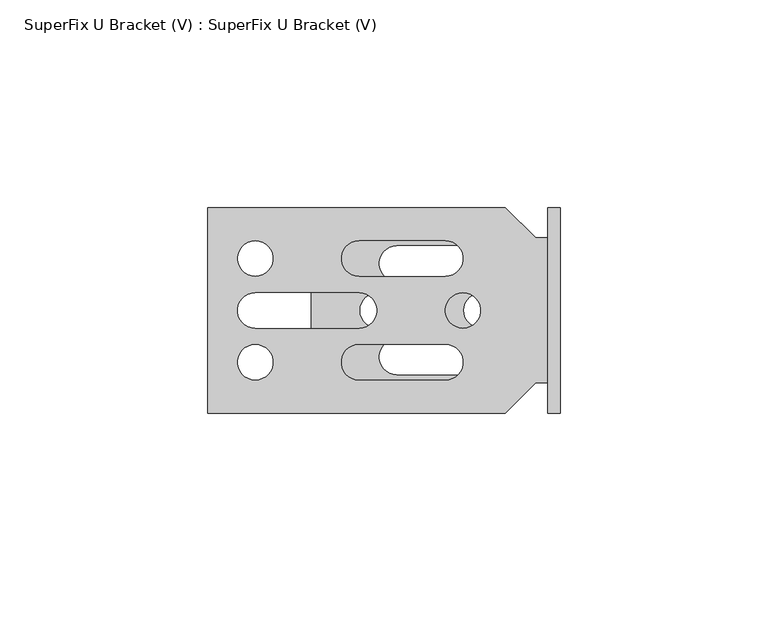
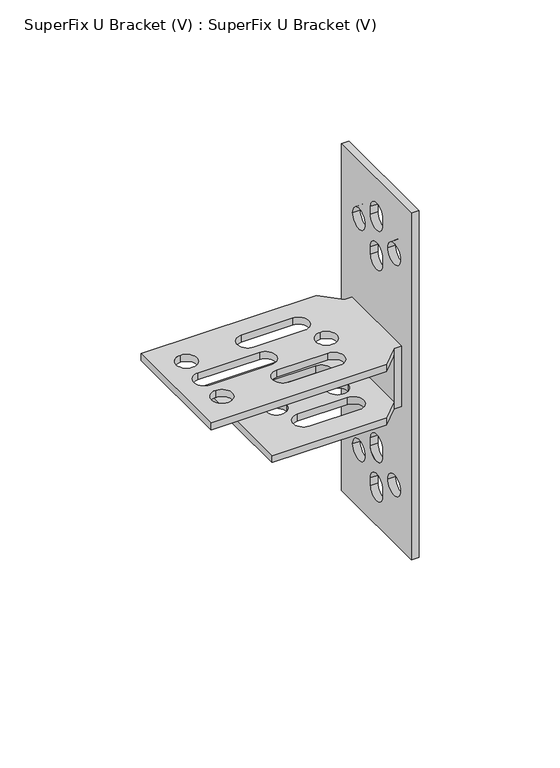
"""IFC4 building model written with IfcOpenShell, lengths in millimetres: valve geometry, SuperFix U Bracket (V) : SuperFix U Bracket (V)."""

from ifc_helpers import new_model, si_unit, point, frame, frame_2d, origin, place, context, project, spatial, polyline, circle_curve, trimmed, segment, composite_curve, outline, extrude, source, transform, mapped, element, save
from ifc_brep_helpers import plane_surface, revolved_surface, advanced_brep


def superfix_u_bracket_v_superfix_u_bracket_v_062b6a46(model_context):
    return source(origin(), model_context, "Body", "SolidModel", [
        advanced_brep(
        [(-60.0, -24.75, 3.0), (-60.0, -24.75, 0.0), (-13.2769513, -24.75, 0.0), (-13.2769513, -24.75, 3.0), (-85.0, -24.75, 26.0), (-85.0, -24.75, 23.0), (-13.2769513, -24.75, 23.0), (-13.2769513, -24.75, 26.0), (-85.0, 24.75, 23.0), (-85.0, 24.75, 26.0), (-13.2769513, 24.75, 26.0), (-13.2769513, 24.75, 23.0), (-60.0, 24.75, 0.0), (-60.0, 24.75, 3.0), (-13.2769513, 24.75, 3.0), (-13.2769513, 24.75, 0.0), (-5.9935468, 17.4665954, 23.0), (-6.0, -17.4730487, 23.0), (-23.5, -4.25, 23.0), (-23.5, 4.25, 23.0), (-73.5, 8.25, 23.0), (-73.5, 16.75, 23.0), (-73.5, -16.75, 23.0), (-73.5, -8.25, 23.0), (-27.7293627, 16.7623453, 23.0), (-48.5, 16.7623453, 23.0), (-48.5, 8.2417698, 23.0), (-27.7293627, 8.2417698, 23.0), (-27.7293627, -8.2376547, 23.0), (-48.5, -8.2376547, 23.0), (-48.5, -16.7582302, 23.0), (-27.7293627, -16.7582302, 23.0), (-48.5, 4.2602877, 23.0), (-73.5, 4.2602877, 23.0), (-73.5, -4.2602877, 23.0), (-48.5, -4.2602877, 23.0), (-5.9870936, -17.4601422, 26.0), (-3.0, -17.4601422, 26.0), (-3.0, 17.4601422, 26.0), (-5.9870936, 17.4601422, 26.0), (-23.5, 4.25, 26.0), (-23.5, -4.25, 26.0), (-73.5, 16.75, 26.0), (-73.5, 8.25, 26.0), (-73.5, -8.25, 26.0), (-73.5, -16.75, 26.0), (-48.5, 16.7623453, 26.0), (-27.7293627, 16.7623453, 26.0), (-27.7293627, 8.2417698, 26.0), (-48.5, 8.2417698, 26.0), (-48.5, -8.2376547, 26.0), (-27.7293627, -8.2376547, 26.0), (-27.7293627, -16.7582302, 26.0), (-48.5, -16.7582302, 26.0), (-73.5, 4.2602877, 26.0), (-48.5, 4.2602877, 26.0), (-48.5, -4.2602877, 26.0), (-73.5, -4.2602877, 26.0), (-3.0, -17.4601422, 0.0), (-3.0, 17.4601422, 0.0), (-5.9870936, 17.4601422, 0.0), (-5.9870936, -17.4601422, 0.0), (-39.7659437, 0.0, 0.0), (-48.2659437, 0.0, 0.0), (-14.7659437, 0.0, 0.0), (-23.2659437, 0.0, 0.0), (-19.0159437, -15.5178015, 0.0), (-19.0159437, -7.0178015, 0.0), (-39.373508, -7.0178015, 0.0), (-39.373508, -15.5178015, 0.0), (-19.0159437, 15.5178015, 0.0), (-39.373508, 15.5178015, 0.0), (-39.373508, 7.0178015, 0.0), (-19.0159437, 7.0178015, 0.0), (-6.0, -17.4730487, 3.0), (-6.0, 17.4601422, 3.0), (-48.2659437, 0.0, 3.0), (-39.7659437, 0.0, 3.0), (-23.2659437, 0.0, 3.0), (-14.7659437, 0.0, 3.0), (-19.0159437, -7.0178015, 3.0), (-19.0159437, -15.5178015, 3.0), (-39.373508, -15.5178015, 3.0), (-39.373508, -7.0178015, 3.0), (-39.373508, 15.5178015, 3.0), (-19.0159437, 15.5178015, 3.0), (-19.0159437, 7.0178015, 3.0), (-39.373508, 7.0178015, 3.0)],
        [
            (0, 1),
            (1, 2),
            (2, 3),
            (3, 0),
            (4, 5),
            (5, 6),
            (6, 7),
            (7, 4),
            (8, 9),
            (9, 10),
            (10, 11),
            (11, 8),
            (12, 13),
            (13, 14),
            (14, 15),
            (15, 12),
            (5, 8),
            (11, 16),
            (16, 17),
            (17, 6),
            (18, 19, circle_curve(frame((-23.5, 0.0, 23.0), z_axis=(0.0, 0.0, 1.0), x_axis=(0.0, -1.0, 0.0)), 4.25)),
            (19, 18, circle_curve(frame((-23.5, 0.0, 23.0), z_axis=(0.0, 0.0, 1.0), x_axis=(0.0, -1.0, 0.0)), 4.25)),
            (20, 21, circle_curve(frame((-73.5, 12.5, 23.0), z_axis=(0.0, 0.0, 1.0), x_axis=(0.0, -1.0, 0.0)), 4.25)),
            (21, 20, circle_curve(frame((-73.5, 12.5, 23.0), z_axis=(0.0, 0.0, 1.0), x_axis=(0.0, -1.0, 0.0)), 4.25)),
            (22, 23, circle_curve(frame((-73.5, -12.5, 23.0), z_axis=(0.0, 0.0, 1.0), x_axis=(0.0, -1.0, 0.0)), 4.25)),
            (23, 22, circle_curve(frame((-73.5, -12.5, 23.0), z_axis=(0.0, 0.0, 1.0), x_axis=(0.0, -1.0, 0.0)), 4.25)),
            (24, 25),
            (25, 26, circle_curve(frame((-48.5, 12.5020575, 23.0), z_axis=(0.0, 0.0, 1.0), x_axis=(0.0, -1.0, 0.0)), 4.2602877)),
            (26, 27),
            (27, 24, circle_curve(frame((-27.7293627, 12.5020575, 23.0), z_axis=(0.0, 0.0, 1.0), x_axis=(0.0, -1.0, 0.0)), 4.2602877)),
            (28, 29),
            (29, 30, circle_curve(frame((-48.5, -12.4979425, 23.0), z_axis=(0.0, 0.0, 1.0), x_axis=(0.0, -1.0, 0.0)), 4.2602877)),
            (30, 31),
            (31, 28, circle_curve(frame((-27.7293627, -12.4979425, 23.0), z_axis=(0.0, 0.0, 1.0), x_axis=(0.0, -1.0, 0.0)), 4.2602877)),
            (32, 33),
            (33, 34, circle_curve(frame((-73.5, 0.0, 23.0), z_axis=(0.0, 0.0, 1.0), x_axis=(0.0, -1.0, 0.0)), 4.2602877)),
            (34, 35),
            (35, 32, circle_curve(frame((-48.5, 0.0, 23.0), z_axis=(0.0, 0.0, 1.0), x_axis=(0.0, -1.0, 0.0)), 4.2602877)),
            (4, 9),
            (7, 36),
            (36, 37),
            (37, 38),
            (38, 39),
            (39, 10),
            (40, 41, circle_curve(frame((-23.5, 0.0, 26.0), z_axis=(0.0, 0.0, -1.0), x_axis=(0.0, -1.0, 0.0)), 4.25)),
            (41, 40, circle_curve(frame((-23.5, 0.0, 26.0), z_axis=(0.0, 0.0, -1.0), x_axis=(0.0, -1.0, 0.0)), 4.25)),
            (42, 43, circle_curve(frame((-73.5, 12.5, 26.0), z_axis=(0.0, 0.0, -1.0), x_axis=(0.0, -1.0, 0.0)), 4.25)),
            (43, 42, circle_curve(frame((-73.5, 12.5, 26.0), z_axis=(0.0, 0.0, -1.0), x_axis=(0.0, -1.0, 0.0)), 4.25)),
            (44, 45, circle_curve(frame((-73.5, -12.5, 26.0), z_axis=(0.0, 0.0, -1.0), x_axis=(0.0, -1.0, 0.0)), 4.25)),
            (45, 44, circle_curve(frame((-73.5, -12.5, 26.0), z_axis=(0.0, 0.0, -1.0), x_axis=(0.0, -1.0, 0.0)), 4.25)),
            (46, 47),
            (47, 48, circle_curve(frame((-27.7293627, 12.5020575, 26.0), z_axis=(0.0, 0.0, -1.0), x_axis=(0.0, -1.0, 0.0)), 4.2602877)),
            (48, 49),
            (49, 46, circle_curve(frame((-48.5, 12.5020575, 26.0), z_axis=(0.0, 0.0, -1.0), x_axis=(0.0, -1.0, 0.0)), 4.2602877)),
            (50, 51),
            (51, 52, circle_curve(frame((-27.7293627, -12.4979425, 26.0), z_axis=(0.0, 0.0, -1.0), x_axis=(0.0, -1.0, 0.0)), 4.2602877)),
            (52, 53),
            (53, 50, circle_curve(frame((-48.5, -12.4979425, 26.0), z_axis=(0.0, 0.0, -1.0), x_axis=(0.0, -1.0, 0.0)), 4.2602877)),
            (54, 55),
            (55, 56, circle_curve(frame((-48.5, 0.0, 26.0), z_axis=(0.0, 0.0, -1.0), x_axis=(0.0, -1.0, 0.0)), 4.2602877)),
            (56, 57),
            (57, 54, circle_curve(frame((-73.5, 0.0, 26.0), z_axis=(0.0, 0.0, -1.0), x_axis=(0.0, -1.0, 0.0)), 4.2602877)),
            (37, 58),
            (58, 59),
            (59, 38),
            (1, 12),
            (15, 60),
            (60, 59),
            (58, 61),
            (61, 2),
            (62, 63, circle_curve(frame((-44.0159437, 0.0, 0.0), z_axis=(0.0, 0.0, 1.0), x_axis=(-1.0, 0.0, 0.0)), 4.25)),
            (63, 62, circle_curve(frame((-44.0159437, 0.0, 0.0), z_axis=(0.0, 0.0, 1.0), x_axis=(-1.0, 0.0, 0.0)), 4.25)),
            (64, 65, circle_curve(frame((-19.0159437, 0.0, 0.0), z_axis=(0.0, 0.0, 1.0), x_axis=(-1.0, 0.0, 0.0)), 4.25)),
            (65, 64, circle_curve(frame((-19.0159437, 0.0, 0.0), z_axis=(0.0, 0.0, 1.0), x_axis=(-1.0, 0.0, 0.0)), 4.25)),
            (66, 67, circle_curve(frame((-19.0159437, -11.2678015, 0.0), z_axis=(0.0, 0.0, 1.0), x_axis=(-1.0, 0.0, 0.0)), 4.25)),
            (67, 68),
            (68, 69, circle_curve(frame((-39.373508, -11.2678015, 0.0), z_axis=(0.0, 0.0, 1.0), x_axis=(-1.0, 0.0, 0.0)), 4.25)),
            (69, 66),
            (70, 71),
            (71, 72, circle_curve(frame((-39.373508, 11.2678015, 0.0), z_axis=(0.0, 0.0, 1.0), x_axis=(-1.0, 0.0, 0.0)), 4.25)),
            (72, 73),
            (73, 70, circle_curve(frame((-19.0159437, 11.2678015, 0.0), z_axis=(0.0, 0.0, 1.0), x_axis=(-1.0, 0.0, 0.0)), 4.25)),
            (0, 13),
            (3, 74),
            (74, 75),
            (75, 14),
            (76, 77, circle_curve(frame((-44.0159437, 0.0, 3.0), z_axis=(0.0, 0.0, -1.0), x_axis=(-1.0, 0.0, 0.0)), 4.25)),
            (77, 76, circle_curve(frame((-44.0159437, 0.0, 3.0), z_axis=(0.0, 0.0, -1.0), x_axis=(-1.0, 0.0, 0.0)), 4.25)),
            (78, 79, circle_curve(frame((-19.0159437, 0.0, 3.0), z_axis=(0.0, 0.0, -1.0), x_axis=(-1.0, 0.0, 0.0)), 4.25)),
            (79, 78, circle_curve(frame((-19.0159437, 0.0, 3.0), z_axis=(0.0, 0.0, -1.0), x_axis=(-1.0, 0.0, 0.0)), 4.25)),
            (80, 81, circle_curve(frame((-19.0159437, -11.2678015, 3.0), z_axis=(0.0, 0.0, -1.0), x_axis=(-1.0, 0.0, 0.0)), 4.25)),
            (81, 82),
            (82, 83, circle_curve(frame((-39.373508, -11.2678015, 3.0), z_axis=(0.0, 0.0, -1.0), x_axis=(-1.0, 0.0, 0.0)), 4.25)),
            (83, 80),
            (84, 85),
            (85, 86, circle_curve(frame((-19.0159437, 11.2678015, 3.0), z_axis=(0.0, 0.0, -1.0), x_axis=(-1.0, 0.0, 0.0)), 4.25)),
            (86, 87),
            (87, 84, circle_curve(frame((-39.373508, 11.2678015, 3.0), z_axis=(0.0, 0.0, -1.0), x_axis=(-1.0, 0.0, 0.0)), 4.25)),
            (16, 75),
            (74, 17),
            (40, 19),
            (18, 41),
            (42, 21),
            (20, 43),
            (44, 23),
            (22, 45),
            (46, 25),
            (24, 47),
            (27, 48),
            (26, 49),
            (50, 29),
            (28, 51),
            (31, 52),
            (30, 53),
            (54, 33),
            (32, 55),
            (35, 56),
            (34, 57),
            (16, 39),
            (60, 75),
            (17, 36),
            (61, 74),
            (62, 77),
            (76, 63),
            (64, 79),
            (78, 65),
            (66, 81),
            (80, 67),
            (83, 68),
            (82, 69),
            (70, 85),
            (84, 71),
            (87, 72),
            (86, 73),
        ],
        [
            plane_surface(frame((-85.0, -24.75, 23.0), z_axis=(0.0, -1.0, 0.0), x_axis=(1.0, 0.0, 0.0))),
            plane_surface(frame((-85.0, 24.75, 23.0), z_axis=(0.0, 1.0, 0.0), x_axis=(-1.0, 0.0, 0.0))),
            plane_surface(frame((-6.0, 24.75, 23.0), z_axis=(0.0, 0.0, -1.0), x_axis=(0.0, -1.0, 0.0))),
            plane_surface(frame((-85.0, 24.75, 23.0), z_axis=(-1.0, 0.0, 0.0), x_axis=(0.0, -1.0, 0.0))),
            plane_surface(frame((-85.0, 24.75, 26.0), z_axis=(0.0, 0.0, 1.0), x_axis=(0.0, -1.0, 0.0))),
            plane_surface(frame((-3.0, 24.75, 26.0), z_axis=(1.0, 0.0, 0.0), x_axis=(0.0, -1.0, 0.0))),
            plane_surface(frame((-3.0, 24.75, 0.0), z_axis=(0.0, 0.0, -1.0), x_axis=(0.0, -1.0, 0.0))),
            plane_surface(frame((-60.0, 24.75, 0.0), z_axis=(-1.0, 0.0, 0.0), x_axis=(0.0, -1.0, 0.0))),
            plane_surface(frame((-60.0, 24.75, 3.0), z_axis=(0.0, 0.0, 1.0), x_axis=(0.0, -1.0, 0.0))),
            plane_surface(frame((-6.0, 24.75, 3.0), z_axis=(-1.0, 0.0, 0.0), x_axis=(0.0, -1.0, 0.0))),
            revolved_surface(polyline([(-23.5, -4.25, 23.0), (-23.5, -4.25, 26.0)]), (-23.5, 0.0, 26.0), (0.0, 0.0, -1.0)),
            revolved_surface(polyline([(-73.5, 8.25, 23.0), (-73.5, 8.25, 26.0)]), (-73.5, 12.5, 26.0), (0.0, 0.0, -1.0)),
            revolved_surface(polyline([(-73.5, -16.75, 23.0), (-73.5, -16.75, 26.0)]), (-73.5, -12.5, 26.0), (0.0, 0.0, -1.0)),
            plane_surface(frame((-48.5, 16.7623453, 21.0), z_axis=(0.0, -1.0, 0.0), x_axis=(0.0, 0.0, 1.0))),
            revolved_surface(polyline([(-27.7293627, 8.2417698, 23.0), (-27.7293627, 8.2417698, 26.0)]), (-27.7293627, 12.5020575, 26.0), (0.0, 0.0, -1.0)),
            plane_surface(frame((-27.7293627, 8.2417698, 21.0), z_axis=(0.0, 1.0, 0.0), x_axis=(0.0, 0.0, 1.0))),
            revolved_surface(polyline([(-48.5, 8.2417698, 23.0), (-48.5, 8.2417698, 26.0)]), (-48.5, 12.5020575, 26.0), (0.0, 0.0, -1.0)),
            plane_surface(frame((-48.5, -8.2376547, 21.0), z_axis=(0.0, -1.0, 0.0), x_axis=(0.0, 0.0, 1.0))),
            revolved_surface(polyline([(-27.7293627, -16.7582302, 23.0), (-27.7293627, -16.7582302, 26.0)]), (-27.7293627, -12.4979425, 26.0), (0.0, 0.0, -1.0)),
            plane_surface(frame((-27.7293627, -16.7582302, 21.0), z_axis=(0.0, 1.0, 0.0), x_axis=(0.0, 0.0, 1.0))),
            revolved_surface(polyline([(-48.5, -16.7582302, 23.0), (-48.5, -16.7582302, 26.0)]), (-48.5, -12.4979425, 26.0), (0.0, 0.0, -1.0)),
            plane_surface(frame((-73.5, 4.2602877, 21.0), z_axis=(0.0, -1.0, 0.0), x_axis=(0.0, 0.0, 1.0))),
            revolved_surface(polyline([(-48.5, -4.2602877, 23.0), (-48.5, -4.2602877, 26.0)]), (-48.5, 0.0, 26.0), (0.0, 0.0, -1.0)),
            plane_surface(frame((-48.5, -4.2602877, 21.0), z_axis=(0.0, 1.0, 0.0), x_axis=(0.0, 0.0, 1.0))),
            revolved_surface(polyline([(-73.5, -4.2602877, 23.0), (-73.5, -4.2602877, 26.0)]), (-73.5, 0.0, 26.0), (0.0, 0.0, -1.0)),
            plane_surface(frame((-5.9870936, 17.4601422, 26.0), z_axis=(0.0, 1.0, 0.0), x_axis=(0.0, 0.0, -1.0))),
            plane_surface(frame((-13.2769513, 24.75, 26.0), z_axis=(0.7071067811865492, 0.7071067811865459, 0.0), x_axis=(0.0, 0.0, -1.0))),
            plane_surface(frame((-5.9870936, -17.4601422, 26.0), z_axis=(0.7071067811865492, -0.7071067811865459, 0.0), x_axis=(0.0, 0.0, -1.0))),
            plane_surface(frame((-2.9870936, -17.4601422, 26.0), z_axis=(0.0, -1.0, 0.0), x_axis=(0.0, 0.0, -1.0))),
            revolved_surface(polyline([(-48.2659437, 0.0, 3.0), (-48.2659437, 0.0, 0.0)]), (-44.0159437, 0.0, 0.0), (0.0, 0.0, 1.0)),
            revolved_surface(polyline([(-23.2659437, 0.0, 3.0), (-23.2659437, 0.0, 0.0)]), (-19.0159437, 0.0, 0.0), (0.0, 0.0, 1.0)),
            revolved_surface(polyline([(-23.2659437, -11.2678015, 3.0), (-23.2659437, -11.2678015, 0.0)]), (-19.0159437, -11.2678015, 0.0), (0.0, 0.0, 1.0)),
            plane_surface(frame((-19.0159437, -7.0178015, 5.0), z_axis=(0.0, -1.0, 0.0), x_axis=(0.0, 0.0, -1.0))),
            revolved_surface(polyline([(-43.623508, -11.2678015, 3.0), (-43.623508, -11.2678015, 0.0)]), (-39.373508, -11.2678015, 0.0), (0.0, 0.0, 1.0)),
            plane_surface(frame((-39.373508, -15.5178015, 5.0), z_axis=(0.0, 1.0, 0.0), x_axis=(0.0, 0.0, -1.0))),
            plane_surface(frame((-19.0159437, 15.5178015, 5.0), z_axis=(0.0, -1.0, 0.0), x_axis=(0.0, 0.0, -1.0))),
            revolved_surface(polyline([(-43.623508, 11.2678015, 3.0), (-43.623508, 11.2678015, 0.0)]), (-39.373508, 11.2678015, 0.0), (0.0, 0.0, 1.0)),
            plane_surface(frame((-39.373508, 7.0178015, 5.0), z_axis=(0.0, 1.0, 0.0), x_axis=(0.0, 0.0, -1.0))),
            revolved_surface(polyline([(-23.2659437, 11.2678015, 3.0), (-23.2659437, 11.2678015, 0.0)]), (-19.0159437, 11.2678015, 0.0), (0.0, 0.0, 1.0)),
        ],
        [
            (0, [[1, 2, 3, 4]]),
            (0, [[5, 6, 7, 8]]),
            (1, [[9, 10, 11, 12]]),
            (1, [[13, 14, 15, 16]]),
            (2, [[17, -12, 18, 19, 20, -6], [21, 22], [23, 24], [25, 26], [27, 28, 29, 30], [31, 32, 33, 34], [35, 36, 37, 38]]),
            (3, [[-5, 39, -9, -17]]),
            (4, [[-39, -8, 40, 41, 42, 43, 44, -10], [45, 46], [47, 48], [49, 50], [51, 52, 53, 54], [55, 56, 57, 58], [59, 60, 61, 62]]),
            (5, [[-42, 63, 64, 65]]),
            (6, [[66, -16, 67, 68, -64, 69, 70, -2], [71, 72], [73, 74], [75, 76, 77, 78], [79, 80, 81, 82]]),
            (7, [[-1, 83, -13, -66]]),
            (8, [[-83, -4, 84, 85, 86, -14], [87, 88], [89, 90], [91, 92, 93, 94], [95, 96, 97, 98]]),
            (9, [[-19, 99, -85, 100]]),
            (10, [[101, -21, 102, -45]]),
            (10, [[-101, -46, -102, -22]]),
            (11, [[103, -23, 104, -47]]),
            (11, [[-103, -48, -104, -24]]),
            (12, [[105, -25, 106, -49]]),
            (12, [[-105, -50, -106, -26]]),
            (13, [[107, -27, 108, -51]]),
            (14, [[-108, -30, 109, -52]]),
            (15, [[-109, -29, 110, -53]]),
            (16, [[-107, -54, -110, -28]]),
            (17, [[111, -31, 112, -55]]),
            (18, [[-112, -34, 113, -56]]),
            (19, [[-113, -33, 114, -57]]),
            (20, [[-111, -58, -114, -32]]),
            (21, [[115, -35, 116, -59]]),
            (22, [[-116, -38, 117, -60]]),
            (23, [[-117, -37, 118, -61]]),
            (24, [[-115, -62, -118, -36]]),
            (25, [[119, -43, -65, -68, 120, -99]]),
            (26, [[-119, -18, -11, -44]]),
            (26, [[-120, -67, -15, -86]]),
            (27, [[121, -40, -7, -20]]),
            (27, [[122, -84, -3, -70]]),
            (28, [[-121, -100, -122, -69, -63, -41]]),
            (29, [[123, -87, 124, -71]]),
            (29, [[-123, -72, -124, -88]]),
            (30, [[125, -89, 126, -73]]),
            (30, [[-125, -74, -126, -90]]),
            (31, [[127, -91, 128, -75]]),
            (32, [[-128, -94, 129, -76]]),
            (33, [[-129, -93, 130, -77]]),
            (34, [[-127, -78, -130, -92]]),
            (35, [[131, -95, 132, -79]]),
            (36, [[-132, -98, 133, -80]]),
            (37, [[-133, -97, 134, -81]]),
            (38, [[-131, -82, -134, -96]]),
        ],
    ),
        extrude(outline(polyline([(-24.75, 88.0), (24.75, 88.0), (24.75, -62.0), (-24.75, -62.0), (-24.75, 88.0)]), holes=[composite_curve([segment(trimmed(circle_curve(frame_2d((12.5, -37.0)), 4.4), [point((8.1, -37.0))], [point((16.9, -37.0))], True, "CARTESIAN"), True, "CONTINUOUS"), segment(trimmed(circle_curve(frame_2d((12.5, -37.0)), 4.4), [point((16.9, -37.0))], [point((8.1, -37.0))], True, "CARTESIAN"), True, "CONTINUOUS")], self_intersect=False), composite_curve([segment(trimmed(circle_curve(frame_2d((-12.5, -37.0)), 4.4), [point((-16.9, -37.0))], [point((-8.1, -37.0))], True, "CARTESIAN"), True, "CONTINUOUS"), segment(trimmed(circle_curve(frame_2d((-12.5, -37.0)), 4.4), [point((-8.1, -37.0))], [point((-16.9, -37.0))], True, "CARTESIAN"), True, "CONTINUOUS")], self_intersect=False), composite_curve([segment(trimmed(circle_curve(frame_2d((-12.5, 63.0)), 4.4), [point((-16.9, 63.0))], [point((-8.1, 63.0))], True, "CARTESIAN"), True, "CONTINUOUS"), segment(trimmed(circle_curve(frame_2d((-12.5, 63.0)), 4.4), [point((-8.1, 63.0))], [point((-16.9, 63.0))], True, "CARTESIAN"), True, "CONTINUOUS")], self_intersect=False), composite_curve([segment(trimmed(circle_curve(frame_2d((12.5, 63.0)), 4.4), [point((8.1, 63.0))], [point((16.9, 63.0))], True, "CARTESIAN"), True, "CONTINUOUS"), segment(trimmed(circle_curve(frame_2d((12.5, 63.0)), 4.4), [point((16.9, 63.0))], [point((8.1, 63.0))], True, "CARTESIAN"), True, "CONTINUOUS")], self_intersect=False), composite_curve([segment(polyline([(-4.2525926, -26.7030464), (-4.2525926, -30.0)]), True, "CONTINUOUS"), segment(trimmed(circle_curve(frame_2d((0.0, -30.0)), 4.2525926), [point((-4.2525926, -30.0))], [point((4.2525926, -30.0))], True, "CARTESIAN"), True, "CONTINUOUS"), segment(polyline([(4.2525926, -30.0), (4.2525926, -26.7030464)]), True, "CONTINUOUS"), segment(trimmed(circle_curve(frame_2d((0.0, -27.0)), 4.2629479), [point((4.2525926, -26.7030464))], [point((-4.2525926, -26.7030464))], True, "CARTESIAN"), True, "CONTINUOUS")], self_intersect=False), composite_curve([segment(trimmed(circle_curve(frame_2d((0.0, -47.0)), 4.2629479), [point((-4.2525926, -47.2969536))], [point((4.2525926, -47.2969536))], True, "CARTESIAN"), True, "CONTINUOUS"), segment(polyline([(4.2525926, -47.2969536), (4.2525926, -44.0)]), True, "CONTINUOUS"), segment(trimmed(circle_curve(frame_2d((0.0, -44.0)), 4.2525926), [point((4.2525926, -44.0))], [point((-4.2525926, -44.0))], True, "CARTESIAN"), True, "CONTINUOUS"), segment(polyline([(-4.2525926, -44.0), (-4.2525926, -47.2969536)]), True, "CONTINUOUS")], self_intersect=False), composite_curve([segment(trimmed(circle_curve(frame_2d((0.0, 53.0)), 4.2629479), [point((-4.2525926, 52.7030464))], [point((4.2525926, 52.7030464))], True, "CARTESIAN"), True, "CONTINUOUS"), segment(polyline([(4.2525926, 52.7030464), (4.2525926, 56.0)]), True, "CONTINUOUS"), segment(trimmed(circle_curve(frame_2d((0.0, 56.0)), 4.2525926), [point((4.2525926, 56.0))], [point((-4.2525926, 56.0))], True, "CARTESIAN"), True, "CONTINUOUS"), segment(polyline([(-4.2525926, 56.0), (-4.2525926, 52.7030464)]), True, "CONTINUOUS")], self_intersect=False), composite_curve([segment(polyline([(-4.2525926, 73.2969536), (-4.2525926, 70.0)]), True, "CONTINUOUS"), segment(trimmed(circle_curve(frame_2d((0.0, 70.0)), 4.2525926), [point((-4.2525926, 70.0))], [point((4.2525926, 70.0))], True, "CARTESIAN"), True, "CONTINUOUS"), segment(polyline([(4.2525926, 70.0), (4.2525926, 73.2969536)]), True, "CONTINUOUS"), segment(trimmed(circle_curve(frame_2d((0.0, 73.0)), 4.2629479), [point((4.2525926, 73.2969536))], [point((-4.2525926, 73.2969536))], True, "CARTESIAN"), True, "CONTINUOUS")], self_intersect=False)]), frame((-3.0, 0.0, 0.0), z_axis=(1.0, 0.0, 0.0), x_axis=(0.0, 1.0, 0.0)), (0.0, 0.0, 1.0), 3.0),
    ])


if __name__ == "__main__":
    model = new_model("IFC4")
    model_context = context("Model", 3, world=origin())
    ifc_project = project(units=[si_unit("LENGTHUNIT", "METRE", prefix="MILLI")], contexts=[model_context])
    site = spatial("IfcSite", under=ifc_project)
    building = spatial("IfcBuilding", under=site)
    placement = place(None, origin())
    superfix_u_bracket_v_superfix_u_bracket_v_shape = superfix_u_bracket_v_superfix_u_bracket_v_062b6a46(model_context)
    element("IfcValve", 1, ObjectType="SuperFix U Bracket (V) : SuperFix U Bracket (V)", at=placement, inside=building, context=model_context, shape_type="MappedRepresentation", body=[
        mapped(superfix_u_bracket_v_superfix_u_bracket_v_shape, transform((0.0, 0.0, 0.0), x_axis=(1.0, 0.0, 0.0), y_axis=(0.0, 1.0, 0.0), z_axis=(0.0, 0.0, 1.0))),
    ])
    save(model, "model.ifc")
